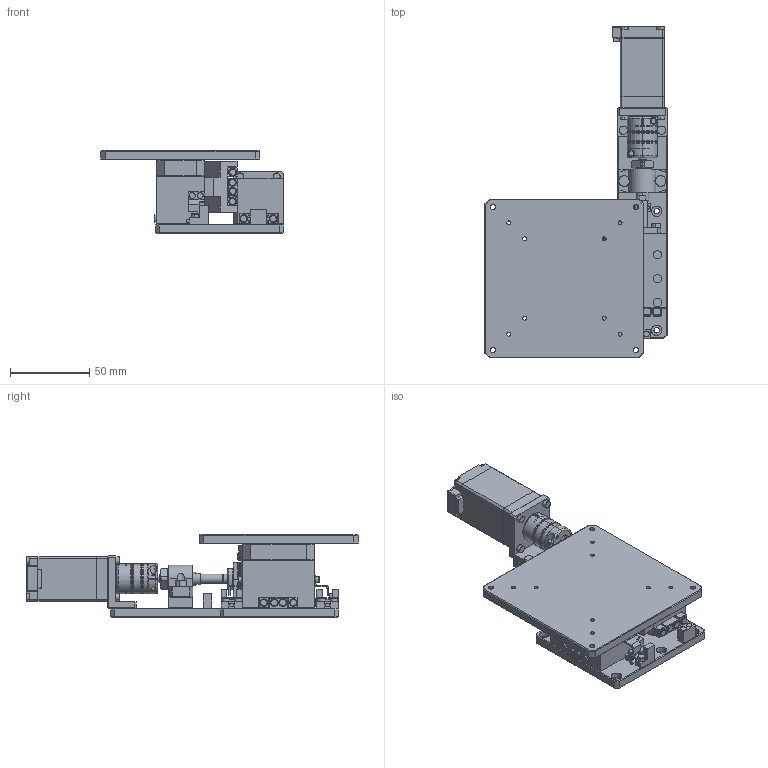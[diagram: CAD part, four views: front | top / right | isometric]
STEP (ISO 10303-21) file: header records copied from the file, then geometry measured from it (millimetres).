
FILE_DESCRIPTION (( 'STEP AP203' ), '1' );
FILE_NAME ('NAFHW1D-100(step).STEP', '2023-09-07T07:16:05', ( '' ), ( '' ), 'SwSTEP 2.0', 'SolidWorks 2023', '' );
FILE_SCHEMA (( 'CONFIG_CONTROL_DESIGN' ));
Length unit declared in the file: millimetre
Products named in the file (1): NAFHW1D-100(step)
Bounding box: 114.57 x 209 x 52.5 mm (x, y, z)
Surface area: 87400.2 mm2 (no closed solid volume)
Topology: 0 solids, 105 shells, 1285 faces, 3449 edges, 2322 vertices
Faces by surface type: plane 736, cylinder 345, cone 100, torus 86, bspline 18
Entity records: 45210 total; most frequent: CARTESIAN_POINT 12575, DIRECTION 6936, ORIENTED_EDGE 6372, EDGE_CURVE 3449, AXIS2_PLACEMENT_3D 2433, VERTEX_POINT 2322, LINE 2070, VECTOR 2070
